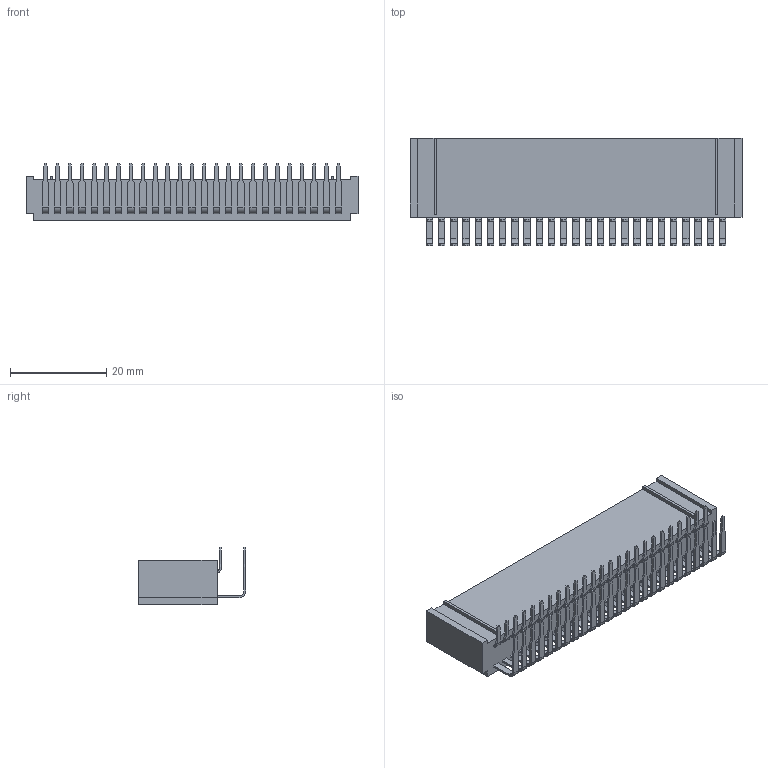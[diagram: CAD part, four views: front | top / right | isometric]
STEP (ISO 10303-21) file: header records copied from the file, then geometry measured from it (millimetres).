
FILE_DESCRIPTION((''),'2;1');
FILE_NAME('S-52932-XXXXX-101','2014-08-26T',('t00743'),(''),'PRO/ENGINEER BY PARAMETRIC TECHNOLOGY CORPORATION, 2007450','PRO/ENGINEER BY PARAMETRIC TECHNOLOGY CORPORATION, 2007450','');
FILE_SCHEMA(('CONFIG_CONTROL_DESIGN'));
Products named in the file (1): S-52932-XXXXX-101
Bounding box: 69.04 x 22.33 x 11.99 mm (x, y, z)
Volume: 7220.5 mm3; surface area: 10833.4 mm2
Topology: 1 solids, 1 shells, 2807 faces, 7758 edges, 4904 vertices
Faces by surface type: plane 2007, cylinder 600, bspline 200
Entity records: 92427 total; most frequent: CARTESIAN_POINT 21795, ORIENTED_EDGE 15316, DIRECTION 13424, EDGE_CURVE 7658, VECTOR 6258, LINE 6258, VERTEX_POINT 4804, AXIS2_PLACEMENT_3D 3583
